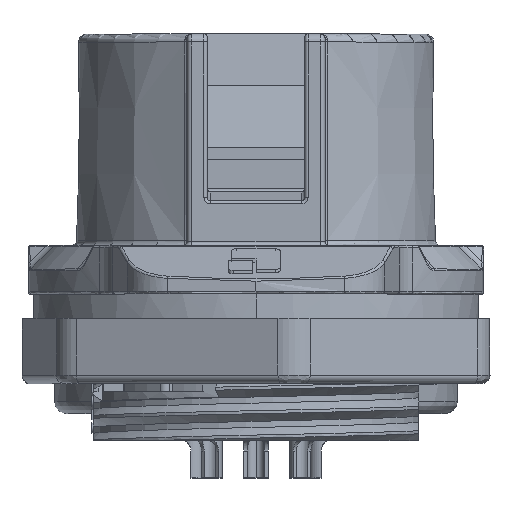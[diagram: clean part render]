
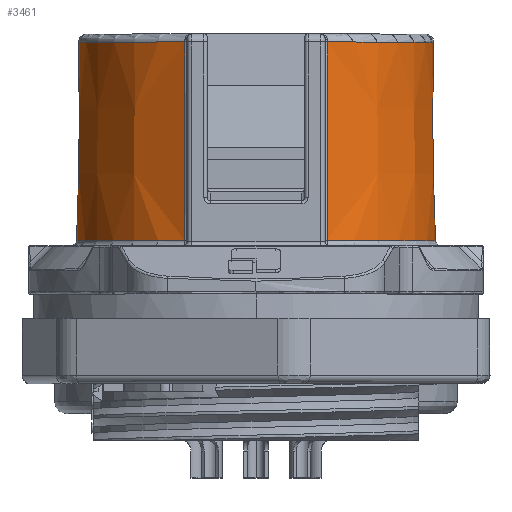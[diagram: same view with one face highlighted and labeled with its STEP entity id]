
A CAD part, top view. The second image highlights one B-rep face of the part: STEP entity #3461.
In plain terms, the highlighted conical face has half-angle 0.5 degrees and reference radius 11.05 mm.
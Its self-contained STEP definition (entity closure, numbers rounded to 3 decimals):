
#468 = CARTESIAN_POINT ( 'NONE',  ( -4.371, 33.097, 10.142 ) ) ;
#3461 = ADVANCED_FACE ( 'NONE', ( #10121 ), #10978, .T. ) ;
#4089 = ORIENTED_EDGE ( 'NONE', *, *, #61755, .T. ) ;
#4242 = CARTESIAN_POINT ( 'NONE',  ( 4.37, 40.771, 10.069 ) ) ;
#5028 = CARTESIAN_POINT ( 'NONE',  ( 0., 32.4, 0. ) ) ;
#6882 = VERTEX_POINT ( 'NONE', #61408 ) ;
#8897 = CARTESIAN_POINT ( 'NONE',  ( 0., 32.697, 0. ) ) ;
#10121 = FACE_OUTER_BOUND ( 'NONE', #68104, .T. ) ;
#10715 = EDGE_CURVE ( 'NONE', #39432, #45523, #54388, .T. ) ;
#10978 = CONICAL_SURFACE ( 'NONE', #12975, 11.05, 0.009 ) ;
#11216 = CARTESIAN_POINT ( 'NONE',  ( -4.371, 33.631, 10.137 ) ) ;
#11881 = CARTESIAN_POINT ( 'NONE',  ( -4.371, 32.831, 10.145 ) ) ;
#12975 = AXIS2_PLACEMENT_3D ( 'NONE', #5028, #20652, #58301 ) ;
#13016 = DIRECTION ( 'NONE',  ( 0., 0., 1. ) ) ;
#13227 = ORIENTED_EDGE ( 'NONE', *, *, #62569, .T. ) ;
#15436 = CARTESIAN_POINT ( 'NONE',  ( 4.371, 35.236, 10.122 ) ) ;
#16079 = CIRCLE ( 'NONE', #48599, 10.941 ) ;
#16337 = B_SPLINE_CURVE_WITH_KNOTS ( 'NONE', 3,
 ( #19403, #57272, #45856, #25239, #24529, #25472, #63799, #4242, #26400, #36261, #15436, #62877, #21038 ),
 .UNSPECIFIED., .F., .F.,
 ( 4, 3, 3, 3, 4 ),
 ( 0., 0., 0.002, 0.008, 0.012 ),
 .UNSPECIFIED. ) ;
#17163 = CIRCLE ( 'NONE', #25665, 11.047 ) ;
#18362 = CARTESIAN_POINT ( 'NONE',  ( 0., 44.904, 0. ) ) ;
#19403 = CARTESIAN_POINT ( 'NONE',  ( 4.37, 44.904, 10.03 ) ) ;
#19620 = ORIENTED_EDGE ( 'NONE', *, *, #10715, .T. ) ;
#20652 = DIRECTION ( 'NONE',  ( 0., -1., 0. ) ) ;
#20873 = CARTESIAN_POINT ( 'NONE',  ( 4.37, 44.904, 10.03 ) ) ;
#21038 = CARTESIAN_POINT ( 'NONE',  ( 4.371, 32.697, 10.146 ) ) ;
#21674 = CARTESIAN_POINT ( 'NONE',  ( -4.371, 32.697, 10.146 ) ) ;
#23954 = DIRECTION ( 'NONE',  ( 0., -1., 0. ) ) ;
#24230 = DIRECTION ( 'NONE',  ( 0., 1., 0. ) ) ;
#24529 = CARTESIAN_POINT ( 'NONE',  ( 4.37, 43.971, 10.039 ) ) ;
#25239 = CARTESIAN_POINT ( 'NONE',  ( 4.37, 44.504, 10.034 ) ) ;
#25472 = CARTESIAN_POINT ( 'NONE',  ( 4.37, 43.438, 10.044 ) ) ;
#25665 = AXIS2_PLACEMENT_3D ( 'NONE', #8897, #24230, #67975 ) ;
#26400 = CARTESIAN_POINT ( 'NONE',  ( 4.371, 38.638, 10.09 ) ) ;
#27042 = CARTESIAN_POINT ( 'NONE',  ( -4.37, 41.097, 10.066 ) ) ;
#27715 = CARTESIAN_POINT ( 'NONE',  ( -4.371, 36.831, 10.107 ) ) ;
#31720 = ORIENTED_EDGE ( 'NONE', *, *, #51982, .T. ) ;
#32437 = CARTESIAN_POINT ( 'NONE',  ( -4.37, 42.366, 10.054 ) ) ;
#36261 = CARTESIAN_POINT ( 'NONE',  ( 4.371, 36.505, 10.11 ) ) ;
#39432 = VERTEX_POINT ( 'NONE', #43764 ) ;
#42314 = CARTESIAN_POINT ( 'NONE',  ( -4.37, 44.904, 10.03 ) ) ;
#43202 = CARTESIAN_POINT ( 'NONE',  ( -4.37, 38.964, 10.087 ) ) ;
#43764 = CARTESIAN_POINT ( 'NONE',  ( -4.371, 32.697, 10.146 ) ) ;
#43867 = CARTESIAN_POINT ( 'NONE',  ( -4.37, 44.904, 10.03 ) ) ;
#45523 = VERTEX_POINT ( 'NONE', #42314 ) ;
#45856 = CARTESIAN_POINT ( 'NONE',  ( 4.37, 44.638, 10.033 ) ) ;
#48599 = AXIS2_PLACEMENT_3D ( 'NONE', #18362, #23954, #13016 ) ;
#48802 = CARTESIAN_POINT ( 'NONE',  ( -4.37, 43.635, 10.042 ) ) ;
#51982 = EDGE_CURVE ( 'NONE', #45523, #60089, #16079, .T. ) ;
#53946 = CARTESIAN_POINT ( 'NONE',  ( -4.371, 34.697, 10.127 ) ) ;
#54187 = CARTESIAN_POINT ( 'NONE',  ( -4.371, 34.164, 10.132 ) ) ;
#54388 = B_SPLINE_CURVE_WITH_KNOTS ( 'NONE', 3,
 ( #21674, #11881, #59114, #468, #11216, #54187, #53946, #27715, #43202, #27042, #32437, #48802, #43867 ),
 .UNSPECIFIED., .F., .F.,
 ( 4, 3, 3, 3, 4 ),
 ( 0., 0., 0.002, 0.008, 0.012 ),
 .UNSPECIFIED. ) ;
#57272 = CARTESIAN_POINT ( 'NONE',  ( 4.37, 44.771, 10.031 ) ) ;
#58301 = DIRECTION ( 'NONE',  ( 0., 0., 1. ) ) ;
#59114 = CARTESIAN_POINT ( 'NONE',  ( -4.371, 32.964, 10.143 ) ) ;
#60089 = VERTEX_POINT ( 'NONE', #20873 ) ;
#61408 = CARTESIAN_POINT ( 'NONE',  ( 4.371, 32.697, 10.146 ) ) ;
#61755 = EDGE_CURVE ( 'NONE', #60089, #6882, #16337, .T. ) ;
#62569 = EDGE_CURVE ( 'NONE', #6882, #39432, #17163, .T. ) ;
#62877 = CARTESIAN_POINT ( 'NONE',  ( 4.371, 33.967, 10.134 ) ) ;
#63799 = CARTESIAN_POINT ( 'NONE',  ( 4.37, 42.904, 10.049 ) ) ;
#67975 = DIRECTION ( 'NONE',  ( 0., 0., -1. ) ) ;
#68104 = EDGE_LOOP ( 'NONE', ( #13227, #19620, #31720, #4089 ) ) ;
